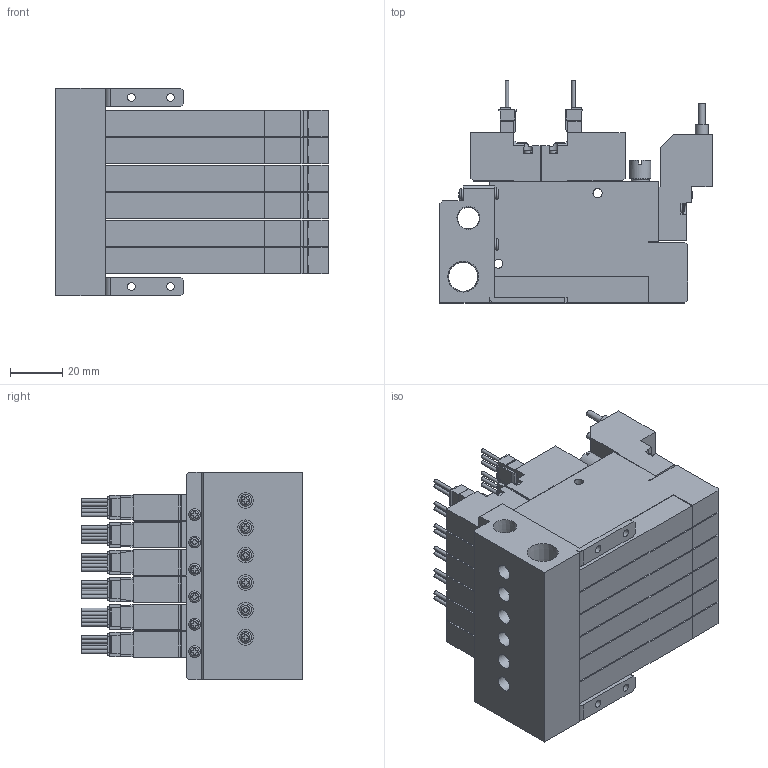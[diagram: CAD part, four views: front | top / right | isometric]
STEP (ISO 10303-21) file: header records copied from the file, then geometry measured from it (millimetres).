
FILE_DESCRIPTION(('STEP AP203'),'1');
FILE_NAME('V8C5WC606_3D.stp','2024-09-04T23:10:39',(' '),(' '),'Spatial InterOp 3D',' ',' ');
FILE_SCHEMA(('CONFIG_CONTROL_DESIGN'));
Length unit declared in the file: millimetre
Products named in the file (5): BSC1M※※V8C5WC606; Solenoid valve W; Pressure Sensor V8; Unit-C; BaseMC60R
Assembly tree (19 placements, depth 2):
  BSC1M※※V8C5WC606
    Solenoid valve W  x6
    Pressure Sensor V8  x6
    Unit-C  x6
    BaseMC60R
Bounding box: 104.5 x 85.05 x 79.5 mm (x, y, z)
Volume: 348413.4 mm3; surface area: 121877.6 mm2
Topology: 19 solids, 19 shells, 2409 faces, 6447 edges, 4266 vertices
Faces by surface type: plane 1853, cylinder 430, cone 58, torus 40, sphere 28
Full cylindrical faces by diameter (mm): 1.4 x30, 2.5 x30, 3 x28, 3.5 x36, 4 x6, 4.134 x12, 4.5 x16, 5 x6, 5.5 x6, 6 x6, 7 x12, 8 x6, 8.422 x1, 11.233 x1
Entity records: 20586 total; most frequent: CARTESIAN_POINT 4792, DIRECTION 3160, ORIENTED_EDGE 3030, EDGE_CURVE 1515, AXIS2_PLACEMENT_3D 1085, VERTEX_POINT 1077, LINE 990, VECTOR 990
